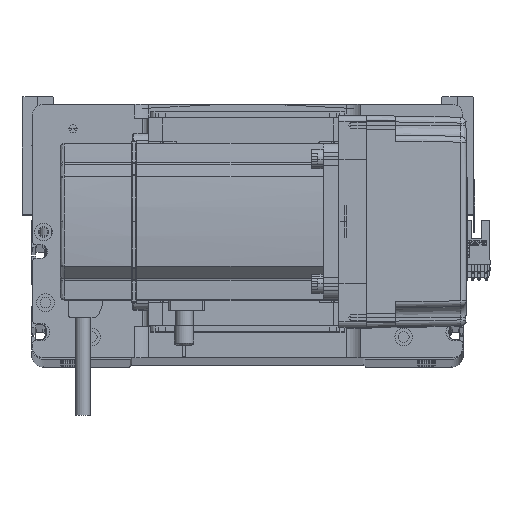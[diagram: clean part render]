
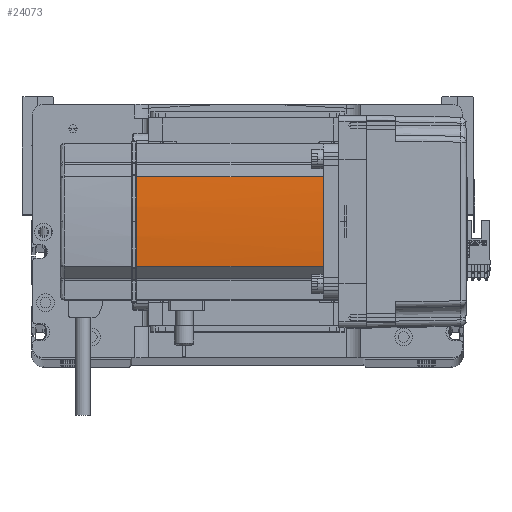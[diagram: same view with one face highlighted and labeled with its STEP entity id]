
A CAD part, top view. The second image highlights one B-rep face of the part: STEP entity #24073.
In plain terms, the highlighted cylindrical face has radius 270 mm (diameter 540 mm), a partial arc.
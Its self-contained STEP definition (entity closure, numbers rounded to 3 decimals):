
#709 = FACE_OUTER_BOUND ( 'NONE', #33870, .T. ) ;
#1526 = CARTESIAN_POINT ( 'NONE',  ( 230., 0., 0. ) ) ;
#1530 = DIRECTION ( 'NONE',  ( 0., 0., -1. ) ) ;
#4785 = ORIENTED_EDGE ( 'NONE', *, *, #43638, .T. ) ;
#8626 = VERTEX_POINT ( 'NONE', #31707 ) ;
#8777 = CARTESIAN_POINT ( 'NONE',  ( -39.042, 22.724, 39. ) ) ;
#10279 = CARTESIAN_POINT ( 'NONE',  ( -39.042, -22.724, 39. ) ) ;
#10816 = VERTEX_POINT ( 'NONE', #43676 ) ;
#12156 = ORIENTED_EDGE ( 'NONE', *, *, #53370, .T. ) ;
#12381 = VERTEX_POINT ( 'NONE', #10279 ) ;
#12768 = CARTESIAN_POINT ( 'NONE',  ( 230., 0., 134. ) ) ;
#13079 = LINE ( 'NONE', #38283, #44972 ) ;
#13495 = EDGE_CURVE ( 'NONE', #12381, #14244, #48762, .T. ) ;
#14244 = VERTEX_POINT ( 'NONE', #8777 ) ;
#14763 = DIRECTION ( 'NONE',  ( 0., 0., 1. ) ) ;
#17281 = EDGE_CURVE ( 'NONE', #10816, #14244, #19742, .T. ) ;
#17631 = DIRECTION ( 'NONE',  ( 0., 0., -1. ) ) ;
#19742 = LINE ( 'NONE', #31273, #30662 ) ;
#20169 = DIRECTION ( 'NONE',  ( 0., 0., -1. ) ) ;
#20413 = DIRECTION ( 'NONE',  ( 0., 0., 1. ) ) ;
#20883 = AXIS2_PLACEMENT_3D ( 'NONE', #52565, #17631, #48008 ) ;
#20925 = ORIENTED_EDGE ( 'NONE', *, *, #17281, .T. ) ;
#21664 = VERTEX_POINT ( 'NONE', #37009 ) ;
#24073 = ADVANCED_FACE ( 'NONE', ( #709 ), #45474, .T. ) ;
#30662 = VECTOR ( 'NONE', #1530, 1000. ) ;
#31273 = CARTESIAN_POINT ( 'NONE',  ( -39.042, 22.724, 0. ) ) ;
#31707 = CARTESIAN_POINT ( 'NONE',  ( -40., 0., 134. ) ) ;
#33017 = EDGE_CURVE ( 'NONE', #8626, #10816, #43924, .T. ) ;
#33278 = CIRCLE ( 'NONE', #49639, 270. ) ;
#33870 = EDGE_LOOP ( 'NONE', ( #4785, #52033, #20925, #34924, #12156 ) ) ;
#34924 = ORIENTED_EDGE ( 'NONE', *, *, #13495, .F. ) ;
#37009 = CARTESIAN_POINT ( 'NONE',  ( -39.042, -22.724, 134. ) ) ;
#37870 = DIRECTION ( 'NONE',  ( 1., 0., 0. ) ) ;
#38049 = CARTESIAN_POINT ( 'NONE',  ( 230., 0., 134. ) ) ;
#38283 = CARTESIAN_POINT ( 'NONE',  ( -39.042, -22.724, 0. ) ) ;
#38799 = AXIS2_PLACEMENT_3D ( 'NONE', #1526, #14763, #53856 ) ;
#43638 = EDGE_CURVE ( 'NONE', #21664, #8626, #33278, .T. ) ;
#43676 = CARTESIAN_POINT ( 'NONE',  ( -39.042, 22.724, 134. ) ) ;
#43924 = CIRCLE ( 'NONE', #50992, 270. ) ;
#44972 = VECTOR ( 'NONE', #20413, 1000. ) ;
#45474 = CYLINDRICAL_SURFACE ( 'NONE', #38799, 270. ) ;
#48008 = DIRECTION ( 'NONE',  ( 1., 0., 0. ) ) ;
#48762 = CIRCLE ( 'NONE', #20883, 270. ) ;
#49639 = AXIS2_PLACEMENT_3D ( 'NONE', #12768, #56020, #56211 ) ;
#50992 = AXIS2_PLACEMENT_3D ( 'NONE', #38049, #20169, #37870 ) ;
#52033 = ORIENTED_EDGE ( 'NONE', *, *, #33017, .T. ) ;
#52565 = CARTESIAN_POINT ( 'NONE',  ( 230., 0., 39. ) ) ;
#53370 = EDGE_CURVE ( 'NONE', #12381, #21664, #13079, .T. ) ;
#53856 = DIRECTION ( 'NONE',  ( 1., 0., 0. ) ) ;
#56020 = DIRECTION ( 'NONE',  ( 0., 0., -1. ) ) ;
#56211 = DIRECTION ( 'NONE',  ( 1., 0., 0. ) ) ;
